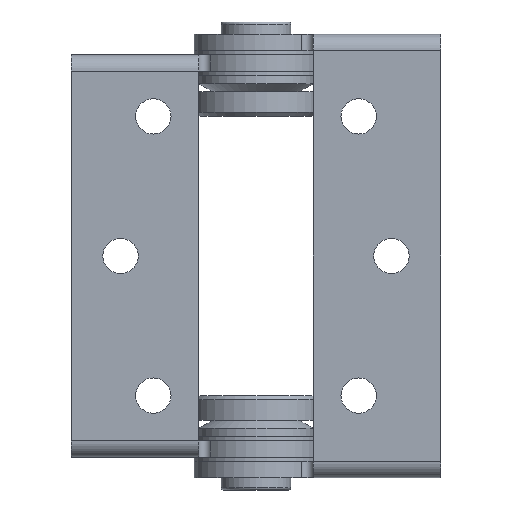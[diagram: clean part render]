
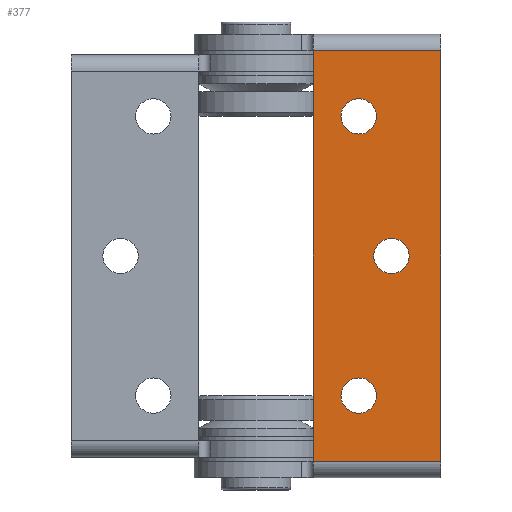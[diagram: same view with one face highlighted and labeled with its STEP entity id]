
A CAD part, front view. The second image highlights one B-rep face of the part: STEP entity #377.
In plain terms, the highlighted planar face has unit normal (0, -1, 0).
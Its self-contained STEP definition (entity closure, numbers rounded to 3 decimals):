
#6 = CARTESIAN_POINT ( 'NONE',  ( 23.609, 0., 25. ) ) ;
#22 = DIRECTION ( 'NONE',  ( -1., 0., 0. ) ) ;
#96 = AXIS2_PLACEMENT_3D ( 'NONE', #1912, #1651, #3805 ) ;
#109 = LINE ( 'NONE', #1335, #3416 ) ;
#123 = ORIENTED_EDGE ( 'NONE', *, *, #1975, .T. ) ;
#151 = FACE_OUTER_BOUND ( 'NONE', #2598, .T. ) ;
#173 = DIRECTION ( 'NONE',  ( 0., 1., 0. ) ) ;
#182 = DIRECTION ( 'NONE',  ( 0., 0., 1. ) ) ;
#223 = CARTESIAN_POINT ( 'NONE',  ( 31.259, 0., -17. ) ) ;
#377 = ADVANCED_FACE ( 'NONE', ( #1007, #3811, #2574, #151 ), #1026, .F. ) ;
#636 = CARTESIAN_POINT ( 'NONE',  ( 35.259, 0., 0. ) ) ;
#694 = DIRECTION ( 'NONE',  ( 0., 1., 0. ) ) ;
#734 = AXIS2_PLACEMENT_3D ( 'NONE', #2818, #3722, #1372 ) ;
#746 = CARTESIAN_POINT ( 'NONE',  ( 39.109, 0., 25. ) ) ;
#747 = CIRCLE ( 'NONE', #2533, 2.15 ) ;
#805 = EDGE_CURVE ( 'NONE', #3268, #1665, #2517, .T. ) ;
#814 = LINE ( 'NONE', #3258, #1005 ) ;
#852 = EDGE_CURVE ( 'NONE', #1861, #3897, #2957, .T. ) ;
#857 = CARTESIAN_POINT ( 'NONE',  ( 23.609, 0., 25. ) ) ;
#883 = CIRCLE ( 'NONE', #3226, 2.15 ) ;
#935 = DIRECTION ( 'NONE',  ( 0., 1., 0. ) ) ;
#1005 = VECTOR ( 'NONE', #3276, 1000. ) ;
#1007 = FACE_BOUND ( 'NONE', #1211, .T. ) ;
#1026 = PLANE ( 'NONE',  #3011 ) ;
#1030 = EDGE_CURVE ( 'NONE', #3897, #1861, #2194, .T. ) ;
#1041 = VERTEX_POINT ( 'NONE', #2163 ) ;
#1053 = DIRECTION ( 'NONE',  ( 0., 1., 0. ) ) ;
#1102 = CARTESIAN_POINT ( 'NONE',  ( 33.109, 0., 0. ) ) ;
#1161 = ORIENTED_EDGE ( 'NONE', *, *, #3131, .T. ) ;
#1167 = EDGE_LOOP ( 'NONE', ( #1403, #2385 ) ) ;
#1211 = EDGE_LOOP ( 'NONE', ( #1910, #3267 ) ) ;
#1300 = ORIENTED_EDGE ( 'NONE', *, *, #805, .T. ) ;
#1335 = CARTESIAN_POINT ( 'NONE',  ( 23.609, 0., -25. ) ) ;
#1362 = DIRECTION ( 'NONE',  ( 0., 0., -1. ) ) ;
#1372 = DIRECTION ( 'NONE',  ( 0., 0., 1. ) ) ;
#1403 = ORIENTED_EDGE ( 'NONE', *, *, #1732, .T. ) ;
#1407 = CARTESIAN_POINT ( 'NONE',  ( 39.109, 0., 27. ) ) ;
#1611 = CARTESIAN_POINT ( 'NONE',  ( 23.609, 0., 27. ) ) ;
#1651 = DIRECTION ( 'NONE',  ( 0., 1., 0. ) ) ;
#1665 = VERTEX_POINT ( 'NONE', #1942 ) ;
#1689 = AXIS2_PLACEMENT_3D ( 'NONE', #3658, #935, #2762 ) ;
#1732 = EDGE_CURVE ( 'NONE', #3940, #2309, #3212, .T. ) ;
#1741 = VERTEX_POINT ( 'NONE', #746 ) ;
#1773 = DIRECTION ( 'NONE',  ( 0., 0., 1. ) ) ;
#1861 = VERTEX_POINT ( 'NONE', #223 ) ;
#1892 = VECTOR ( 'NONE', #22, 1000. ) ;
#1910 = ORIENTED_EDGE ( 'NONE', *, *, #1030, .T. ) ;
#1912 = CARTESIAN_POINT ( 'NONE',  ( 29.109, 0., -17. ) ) ;
#1942 = CARTESIAN_POINT ( 'NONE',  ( 31.259, 0., 17. ) ) ;
#1975 = EDGE_CURVE ( 'NONE', #1741, #2421, #3671, .T. ) ;
#2073 = DIRECTION ( 'NONE',  ( 0., 1., 0. ) ) ;
#2163 = CARTESIAN_POINT ( 'NONE',  ( 23.609, 0., -25. ) ) ;
#2190 = EDGE_CURVE ( 'NONE', #1665, #3268, #883, .T. ) ;
#2194 = CIRCLE ( 'NONE', #1689, 2.15 ) ;
#2263 = DIRECTION ( 'NONE',  ( 0., 0., 1. ) ) ;
#2309 = VERTEX_POINT ( 'NONE', #636 ) ;
#2385 = ORIENTED_EDGE ( 'NONE', *, *, #3232, .T. ) ;
#2396 = ORIENTED_EDGE ( 'NONE', *, *, #2190, .T. ) ;
#2421 = VERTEX_POINT ( 'NONE', #857 ) ;
#2517 = CIRCLE ( 'NONE', #734, 2.15 ) ;
#2525 = AXIS2_PLACEMENT_3D ( 'NONE', #3438, #1053, #2263 ) ;
#2533 = AXIS2_PLACEMENT_3D ( 'NONE', #1102, #173, #1773 ) ;
#2574 = FACE_BOUND ( 'NONE', #3304, .T. ) ;
#2598 = EDGE_LOOP ( 'NONE', ( #2808, #123, #1161, #3060 ) ) ;
#2629 = CARTESIAN_POINT ( 'NONE',  ( 26.959, 0., 17. ) ) ;
#2762 = DIRECTION ( 'NONE',  ( 0., 0., 1. ) ) ;
#2805 = DIRECTION ( 'NONE',  ( 0., 0., 1. ) ) ;
#2808 = ORIENTED_EDGE ( 'NONE', *, *, #3842, .F. ) ;
#2818 = CARTESIAN_POINT ( 'NONE',  ( 29.109, 0., 17. ) ) ;
#2859 = CARTESIAN_POINT ( 'NONE',  ( 39.109, 0., -25. ) ) ;
#2957 = CIRCLE ( 'NONE', #96, 2.15 ) ;
#3011 = AXIS2_PLACEMENT_3D ( 'NONE', #1611, #694, #2805 ) ;
#3060 = ORIENTED_EDGE ( 'NONE', *, *, #3477, .T. ) ;
#3131 = EDGE_CURVE ( 'NONE', #2421, #1041, #814, .T. ) ;
#3212 = CIRCLE ( 'NONE', #2525, 2.15 ) ;
#3224 = VECTOR ( 'NONE', #1362, 1000. ) ;
#3226 = AXIS2_PLACEMENT_3D ( 'NONE', #3591, #2073, #182 ) ;
#3232 = EDGE_CURVE ( 'NONE', #2309, #3940, #747, .T. ) ;
#3258 = CARTESIAN_POINT ( 'NONE',  ( 23.609, 0., 27. ) ) ;
#3267 = ORIENTED_EDGE ( 'NONE', *, *, #852, .T. ) ;
#3268 = VERTEX_POINT ( 'NONE', #2629 ) ;
#3276 = DIRECTION ( 'NONE',  ( 0., 0., -1. ) ) ;
#3304 = EDGE_LOOP ( 'NONE', ( #1300, #2396 ) ) ;
#3416 = VECTOR ( 'NONE', #3759, 1000. ) ;
#3438 = CARTESIAN_POINT ( 'NONE',  ( 33.109, 0., 0. ) ) ;
#3463 = VERTEX_POINT ( 'NONE', #2859 ) ;
#3477 = EDGE_CURVE ( 'NONE', #1041, #3463, #109, .T. ) ;
#3498 = CARTESIAN_POINT ( 'NONE',  ( 26.959, 0., -17. ) ) ;
#3591 = CARTESIAN_POINT ( 'NONE',  ( 29.109, 0., 17. ) ) ;
#3658 = CARTESIAN_POINT ( 'NONE',  ( 29.109, 0., -17. ) ) ;
#3671 = LINE ( 'NONE', #6, #1892 ) ;
#3722 = DIRECTION ( 'NONE',  ( 0., 1., 0. ) ) ;
#3759 = DIRECTION ( 'NONE',  ( 1., 0., 0. ) ) ;
#3791 = LINE ( 'NONE', #1407, #3224 ) ;
#3805 = DIRECTION ( 'NONE',  ( 0., 0., 1. ) ) ;
#3811 = FACE_BOUND ( 'NONE', #1167, .T. ) ;
#3830 = CARTESIAN_POINT ( 'NONE',  ( 30.959, 0., 0. ) ) ;
#3842 = EDGE_CURVE ( 'NONE', #1741, #3463, #3791, .T. ) ;
#3897 = VERTEX_POINT ( 'NONE', #3498 ) ;
#3940 = VERTEX_POINT ( 'NONE', #3830 ) ;
